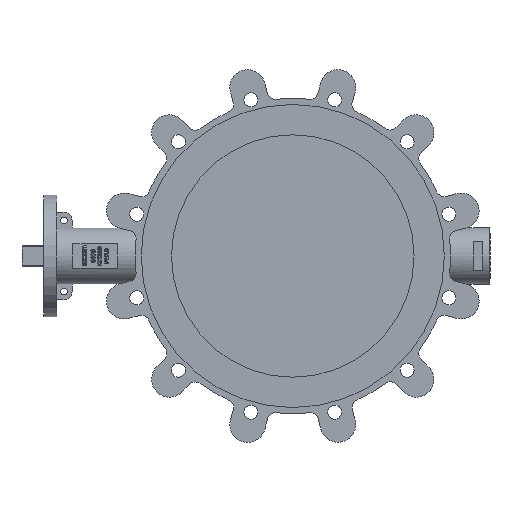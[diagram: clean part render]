
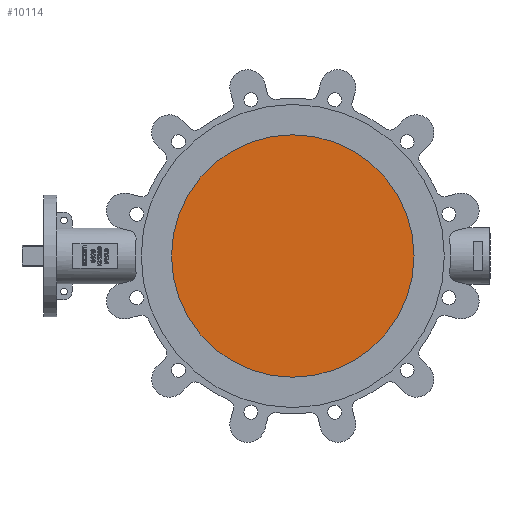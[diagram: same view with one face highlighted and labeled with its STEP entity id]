
A CAD part, left-side view. The second image highlights one B-rep face of the part: STEP entity #10114.
In plain terms, the highlighted planar face has unit normal (-1, 0, 0).
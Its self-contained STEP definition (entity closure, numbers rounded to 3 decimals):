
#486=PLANE('',#10738);
#1280=FACE_OUTER_BOUND('',#1861,.T.);
#1861=EDGE_LOOP('',(#8778));
#3812=CIRCLE('',#10737,150.);
#4724=VERTEX_POINT('',#18028);
#6092=EDGE_CURVE('',#4724,#4724,#3812,.T.);
#8778=ORIENTED_EDGE('',*,*,#6092,.F.);
#10114=ADVANCED_FACE('',(#1280),#486,.F.);
#10737=AXIS2_PLACEMENT_3D('',#18030,#12726,#12727);
#10738=AXIS2_PLACEMENT_3D('',#18031,#12728,#12729);
#12726=DIRECTION('center_axis',(1.,0.,0.));
#12727=DIRECTION('ref_axis',(0.,0.,-1.));
#12728=DIRECTION('center_axis',(1.,0.,0.));
#12729=DIRECTION('ref_axis',(0.,0.,-1.));
#18028=CARTESIAN_POINT('',(-145.954,123.239,150.));
#18030=CARTESIAN_POINT('Origin',(-145.954,123.239,0.));
#18031=CARTESIAN_POINT('Origin',(-145.954,123.239,0.));
